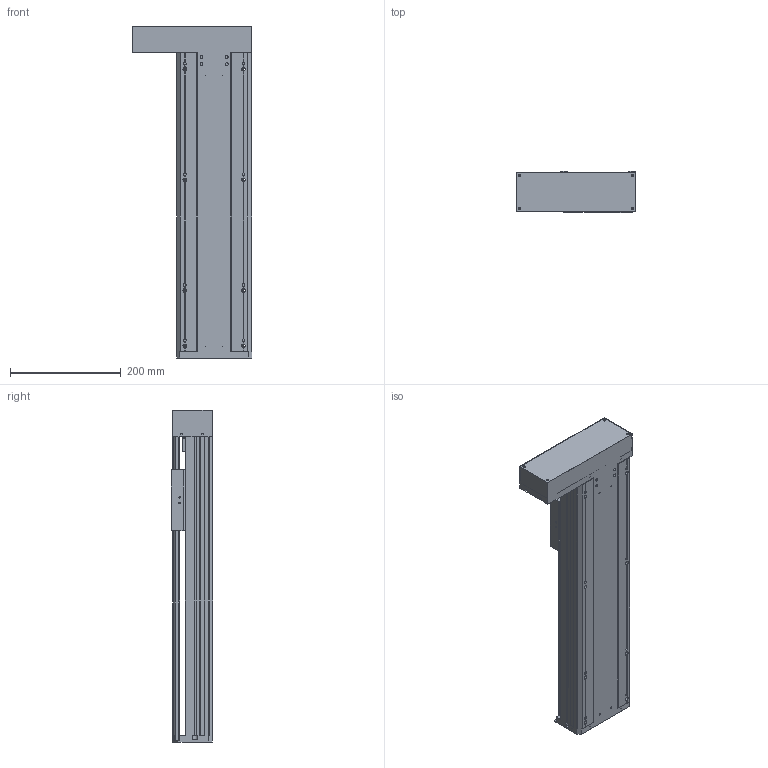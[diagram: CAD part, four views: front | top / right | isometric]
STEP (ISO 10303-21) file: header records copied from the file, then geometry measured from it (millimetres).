
FILE_DESCRIPTION(/* description */ (''),/* implementation_level */ '2;1');
FILE_NAME(/* name */ 'TKA136-FL-350_asm1.stp',/* time_stamp */ '2016-05-07T11:14:15+08:00',/* author */ (''),/* organization */ (''),/* preprocessor_version */ 'ST-DEVELOPER v15',/* originating_system */ 'SIEMENS PLM Software NX 8.5',/* authorisation */ '');
FILE_SCHEMA (('AUTOMOTIVE_DESIGN { 1 0 10303 214 3 1 1 1 }'));
Length unit declared in the file: millimetre
Products named in the file (3): 100-02; 100-01; TKA136-FL-350_asm1
Assembly tree (2 placements, depth 2):
  TKA136-FL-350_asm1
    100-01
    100-02
Bounding box: 216 x 75 x 600 mm (x, y, z)
Volume: 2001710 mm3; surface area: 793879.8 mm2
Topology: 2 solids, 12 shells, 870 faces, 2426 edges, 1583 vertices
Faces by surface type: plane 419, cylinder 400, cone 51
Full cylindrical faces by diameter (mm): 2.5 x14, 3 x2, 3.3 x13, 4 x4, 4.2 x6, 4.5 x24, 5 x16, 5.5 x26, 6.6 x12, 8 x20, 10 x9, 10.5 x8, 11 x4, 11.6 x1, 12 x9, 15 x3, 16 x5, 17 x1, 24 x5, 26 x1, 28 x1, 46 x1, 50 x1
Entity records: 28800 total; most frequent: CARTESIAN_POINT 7476, DIRECTION 4428, ORIENTED_EDGE 4118, EDGE_CURVE 2059, AXIS2_PLACEMENT_3D 1671, VERTEX_POINT 1472, EDGE_LOOP 1294, LINE 1086
